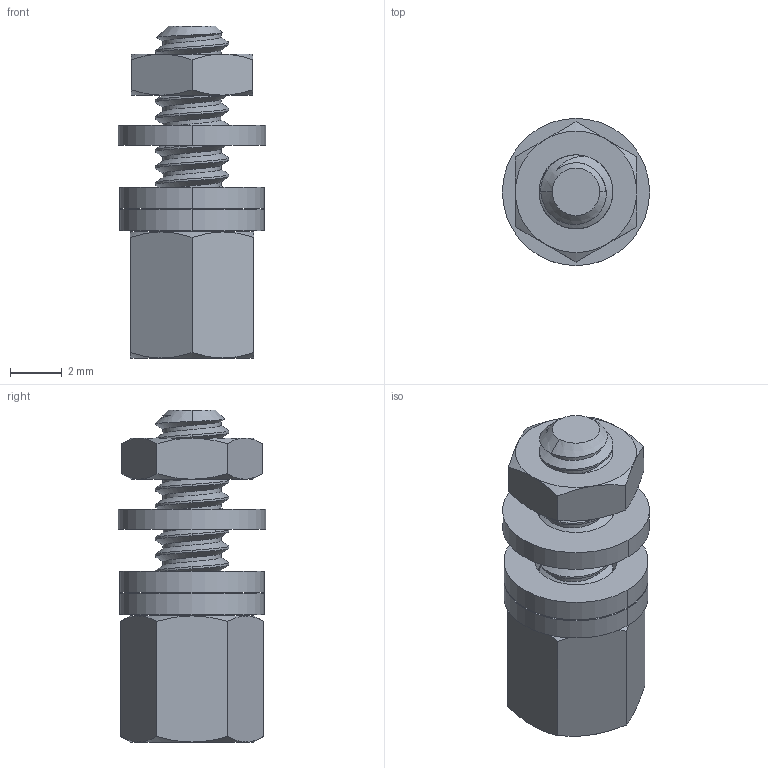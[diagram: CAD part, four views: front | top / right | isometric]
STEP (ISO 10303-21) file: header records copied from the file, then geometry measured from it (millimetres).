
FILE_DESCRIPTION((''),'2;1');
FILE_NAME('C-5205817-3','2011-12-21T',('workeradm'),('Tyco Electronics Ltd.'),'PRO/ENGINEER BY PARAMETRIC TECHNOLOGY CORPORATION, 2010430','PRO/ENGINEER BY PARAMETRIC TECHNOLOGY CORPORATION, 2010430','');
FILE_SCHEMA(('AUTOMOTIVE_DESIGN { 1 0 10303 214 1 1 1 1 }'));
Length unit declared in the file: millimetre
Products named in the file (1): C-5205817-3
Bounding box: 5.66 x 5.66 x 12.78 mm (x, y, z)
Volume: 190.9 mm3; surface area: 437.2 mm2
Topology: 4 solids, 4 shells, 101 faces, 234 edges, 144 vertices
Faces by surface type: cylinder 38, cone 28, plane 26, bspline 9
Entity records: 5758 total; most frequent: CARTESIAN_POINT 3445, ORIENTED_EDGE 468, DIRECTION 385, EDGE_CURVE 234, AXIS2_PLACEMENT_3D 162, VERTEX_POINT 144, EDGE_LOOP 112, B_SPLINE_CURVE_WITH_KNOTS 103
